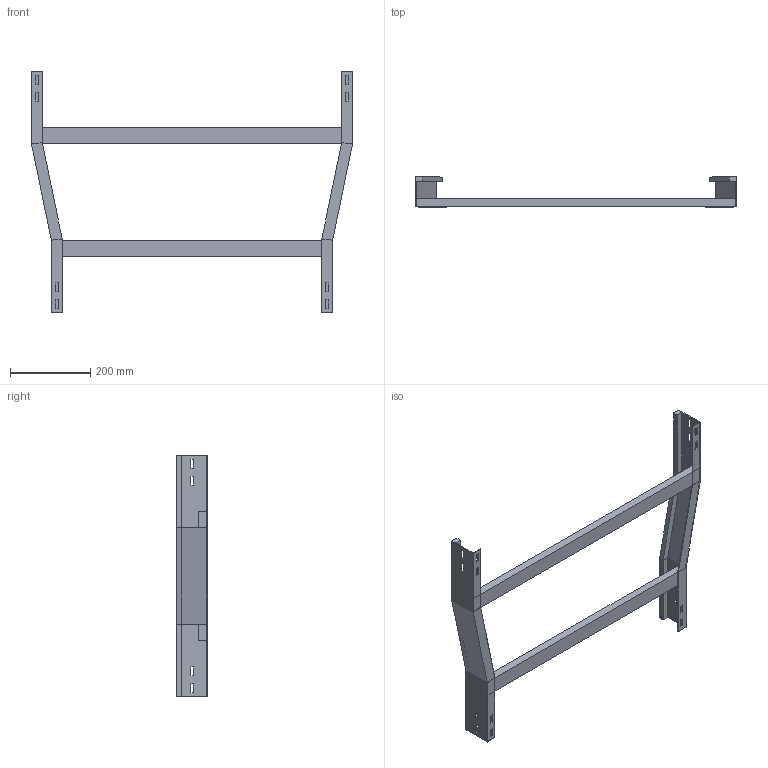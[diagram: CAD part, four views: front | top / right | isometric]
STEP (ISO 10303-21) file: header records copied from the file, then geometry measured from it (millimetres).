
FILE_DESCRIPTION (( 'STEP AP214' ), '1' );
FILE_NAME ('B2X20B7C800XX.step', '2025-09-02T17:15:19', ( '' ), ( '' ), 'SwSTEP 2.0', 'SolidWorks 2023', '' );
FILE_SCHEMA (( 'AUTOMOTIVE_DESIGN' ));
Length unit declared in the file: millimetre
Products named in the file (4): TRAVERSINO_800; SPONDA RID. CENTRALE 800-700_H75; B2X20B7C800XX; TRAVERSINO_700
Assembly tree (3 placements, depth 2):
  B2X20B7C800XX
    SPONDA RID. CENTRALE 800-700_H75
    TRAVERSINO_700
    TRAVERSINO_800
Bounding box: 800 x 75 x 600 mm (x, y, z)
Volume: 1678032 mm3; surface area: 467900.2 mm2
Topology: 4 solids, 4 shells, 128 faces, 328 edges, 208 vertices
Faces by surface type: plane 128
Entity records: 3950 total; most frequent: CARTESIAN_POINT 670, ORIENTED_EDGE 656, DIRECTION 596, VECTOR 328, LINE 328, EDGE_CURVE 328, VERTEX_POINT 208, EDGE_LOOP 160
